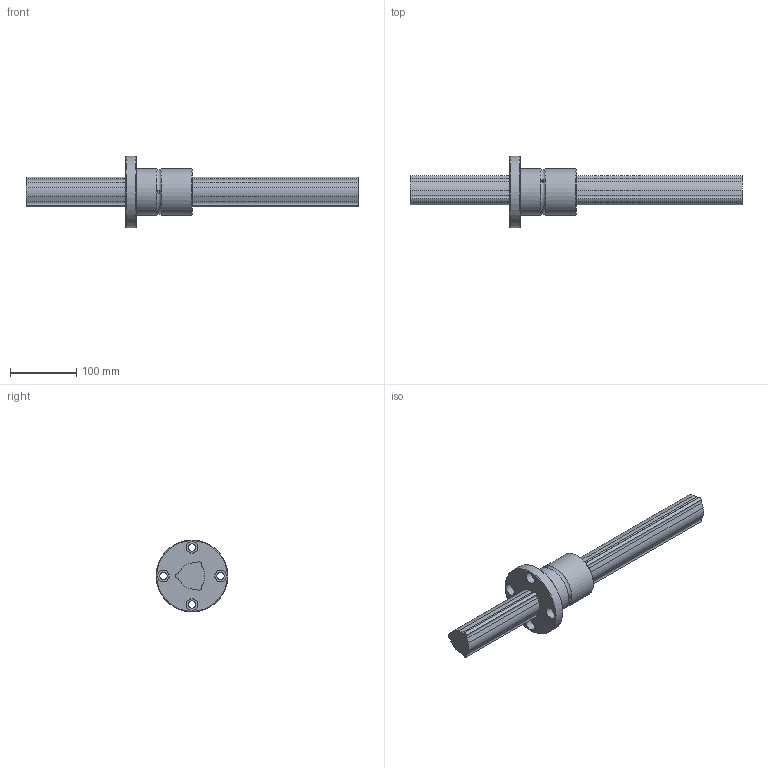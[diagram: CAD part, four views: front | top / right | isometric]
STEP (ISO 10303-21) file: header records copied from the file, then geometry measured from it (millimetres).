
FILE_DESCRIPTION(/* description */ ('STEP AP214'),/* implementation_level */ '2;1');
FILE_NAME(/* name */ 'LBF50+500L(5001500)',/* time_stamp */ '2024-09-04T13:02:15+02:00',/* author */ ('License CC BY-ND 4.0'),/* organization */ ('CADENAS'),/* preprocessor_version */ 'ST-DEVELOPER v19.3',/* originating_system */ 'PARTsolutions',/* authorisation */ ' ');
FILE_SCHEMA (('AUTOMOTIVE_DESIGN {1 0 10303 214 3 1 1}'));
Length unit declared in the file: millimetre
Products named in the file (3): LBF50+500L(5001500); LBF501500 Spline Shaft; LBF50 Nut
Assembly tree (2 placements, depth 2):
  LBF50+500L(5001500)
    LBF501500 Spline Shaft
    LBF50 Nut
Bounding box: 500 x 108 x 108 mm (x, y, z)
Volume: 989395.5 mm3; surface area: 130953.3 mm2
Topology: 2 solids, 2 shells, 66 faces, 165 edges, 111 vertices
Faces by surface type: cylinder 38, plane 24, torus 2, cone 2
Full cylindrical faces by diameter (mm): 4 x3, 11 x4, 17.5 x4, 70 x2, 108 x1
Entity records: 1978 total; most frequent: CARTESIAN_POINT 353, DIRECTION 350, ORIENTED_EDGE 278, AXIS2_PLACEMENT_3D 145, EDGE_CURVE 139, VERTEX_POINT 103, EDGE_LOOP 102, FACE_BOUND 102
